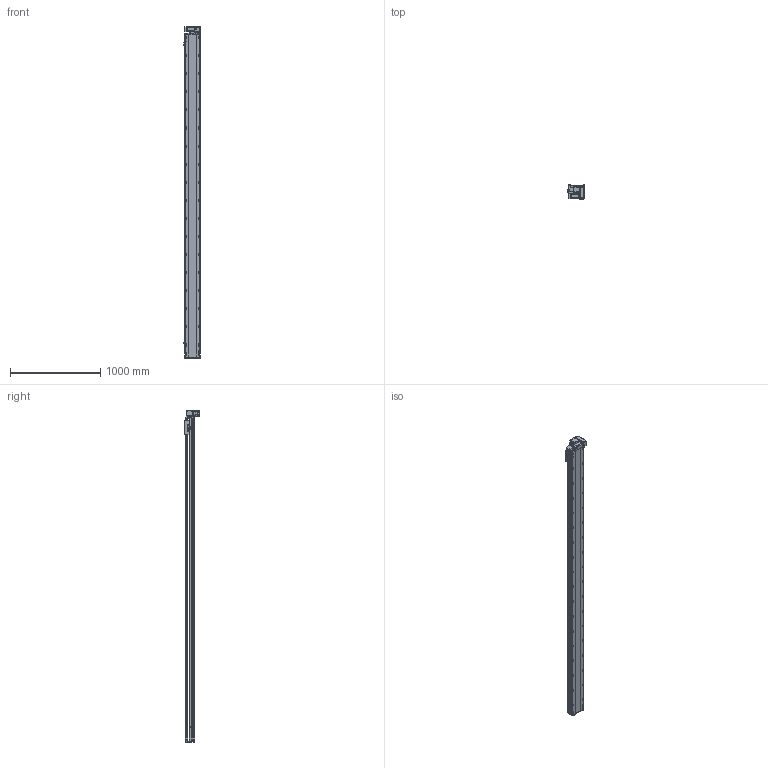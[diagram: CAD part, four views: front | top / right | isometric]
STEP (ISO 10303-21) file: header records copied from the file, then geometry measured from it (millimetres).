
FILE_DESCRIPTION (( 'STEP AP214' ), '1' );
FILE_NAME ('RTB17S-XX-3300-RM-M40-C4.STEP', '2025-12-11T08:37:32', ( '' ), ( '' ), 'SwSTEP 2.0', 'SolidWorks 2018', '' );
FILE_SCHEMA (( 'AUTOMOTIVE_DESIGN' ));
Length unit declared in the file: millimetre
Products named in the file (14): RTB17S-RM-々湍釱蚾饜-400W^RTB17S-XX-XX-RM-M40-C4; RTB17S-L-007奻裔^RTB17S-XX-XX-RM-M40-C4; RTB14-L-017P^RTB17S-RM-々湍釱蚾饜-400W_RTB17S-XX-XX-RM-M40-C4; RTB17S-L-001耜醱啣^RTB17S-XX-XX-RM-M40-C4; RTB14-L-005P--轴承塑胶压盖^RTB17S-RM-皮带座装配-400W_RTB17S-XX-XX-RM-M40-C4; RTH13-BL-012覜茼え俋离^RTB17S-XX-XX-RM-M40-C4; RTB14-L-018P^RTB17S-RM-々湍釱蚾饜-400W_RTB17S-XX-XX-RM-M40-C4; RTB14-L-008-M20--萇儂啣^RTB17S-RM-々湍釱蚾饜-400W_RTB17S-XX-XX-RM-M40-C4; RTB17S-L-014-T20--々湍釱^RTB17S-RM-々湍釱蚾饜-400W_RTB17S-XX-XX-RM-M40-C4; 400W侜督萇儂^RTB17S-XX-XX-RM-M40-C4; RTB17S-L-004佪裝蹟譫蟀諉釱^RTB17S-XX-XX-RM-M40-C4; OMRON EE-SX672 传感器^RTB17S-XX-XX-RM-M40-C4; RTB17-R-011菁釱^RTB17S-XX-XX-RM-M40-C4; RTB17S-XX-3300-RM-M40-C4
Assembly tree (16 placements, depth 3):
  RTB17S-XX-3300-RM-M40-C4
    RTB17-R-011菁釱^RTB17S-XX-XX-RM-M40-C4
    RTB17S-L-007奻裔^RTB17S-XX-XX-RM-M40-C4
    OMRON EE-SX672 传感器^RTB17S-XX-XX-RM-M40-C4  x3
    RTB17S-L-001耜醱啣^RTB17S-XX-XX-RM-M40-C4
    400W侜督萇儂^RTB17S-XX-XX-RM-M40-C4
    RTB17S-L-004佪裝蹟譫蟀諉釱^RTB17S-XX-XX-RM-M40-C4
    RTH13-BL-012覜茼え俋离^RTB17S-XX-XX-RM-M40-C4
    RTB17S-RM-々湍釱蚾饜-400W^RTB17S-XX-XX-RM-M40-C4
      RTB17S-L-014-T20--々湍釱^RTB17S-RM-々湍釱蚾饜-400W_RTB17S-XX-XX-RM-M40-C4
      RTB14-L-005P--轴承塑胶压盖^RTB17S-RM-皮带座装配-400W_RTB17S-XX-XX-RM-M40-C4
      RTB14-L-008-M20--萇儂啣^RTB17S-RM-々湍釱蚾饜-400W_RTB17S-XX-XX-RM-M40-C4
      RTB14-L-017P^RTB17S-RM-々湍釱蚾饜-400W_RTB17S-XX-XX-RM-M40-C4  x2
      RTB14-L-018P^RTB17S-RM-々湍釱蚾饜-400W_RTB17S-XX-XX-RM-M40-C4
Bounding box: 183.5 x 156.5 x 3672.5 mm (x, y, z)
Volume: 31128025.1 mm3; surface area: 3544334.3 mm2
Topology: 15 solids, 15 shells, 2397 faces, 6735 edges, 4401 vertices
Faces by surface type: plane 1092, cylinder 857, bspline 301, cone 139, torus 8
Entity records: 71849 total; most frequent: CARTESIAN_POINT 20540, ORIENTED_EDGE 10314, DIRECTION 9476, EDGE_CURVE 5157, VERTEX_POINT 3389, AXIS2_PLACEMENT_3D 3319, LINE 2838, VECTOR 2838
